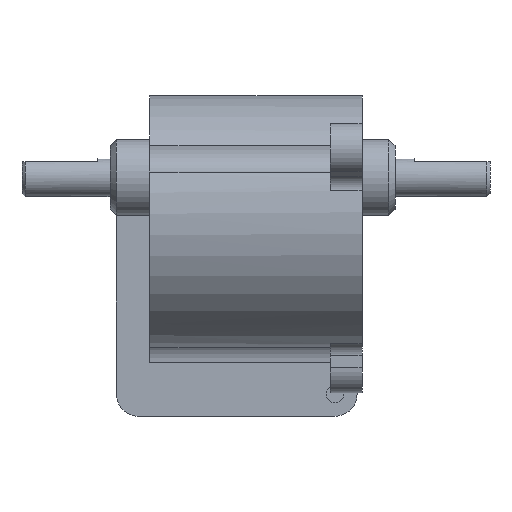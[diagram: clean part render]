
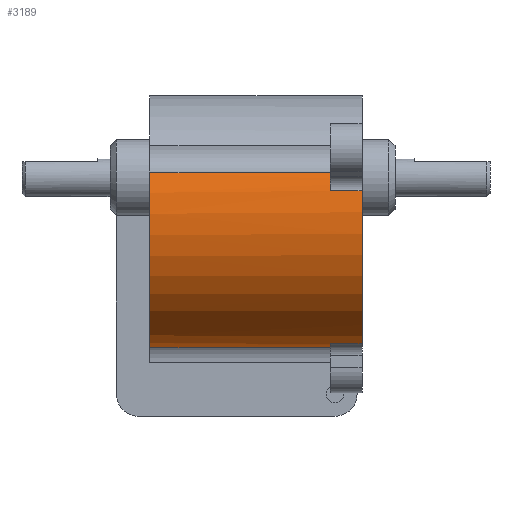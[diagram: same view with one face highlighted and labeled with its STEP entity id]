
A CAD part, left-side view. The second image highlights one B-rep face of the part: STEP entity #3189.
In plain terms, the highlighted cylindrical face has radius 20 mm (diameter 40 mm), a partial arc.
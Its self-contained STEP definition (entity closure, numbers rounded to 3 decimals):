
#181=CYLINDRICAL_SURFACE('',#3502,20.);
#267=FACE_OUTER_BOUND('',#464,.T.);
#464=EDGE_LOOP('',(#2209,#2210,#2211,#2212,#2213,#2214,#2215,#2216));
#712=CIRCLE('',#3503,20.);
#713=CIRCLE('',#3504,20.);
#714=CIRCLE('',#3505,20.);
#715=CIRCLE('',#3506,20.);
#910=LINE('',#5009,#1163);
#912=LINE('',#5017,#1165);
#913=LINE('',#5021,#1166);
#914=LINE('',#5025,#1167);
#1163=VECTOR('',#3941,10.);
#1165=VECTOR('',#3949,10.);
#1166=VECTOR('',#3952,10.);
#1167=VECTOR('',#3955,10.);
#1427=VERTEX_POINT('',#5006);
#1428=VERTEX_POINT('',#5008);
#1430=VERTEX_POINT('',#5014);
#1431=VERTEX_POINT('',#5016);
#1432=VERTEX_POINT('',#5018);
#1433=VERTEX_POINT('',#5020);
#1434=VERTEX_POINT('',#5022);
#1435=VERTEX_POINT('',#5024);
#1735=EDGE_CURVE('',#1427,#1428,#910,.T.);
#1738=EDGE_CURVE('',#1427,#1430,#712,.T.);
#1739=EDGE_CURVE('',#1430,#1431,#912,.T.);
#1740=EDGE_CURVE('',#1431,#1432,#713,.T.);
#1741=EDGE_CURVE('',#1432,#1433,#913,.T.);
#1742=EDGE_CURVE('',#1433,#1434,#714,.T.);
#1743=EDGE_CURVE('',#1435,#1434,#914,.T.);
#1744=EDGE_CURVE('',#1428,#1435,#715,.T.);
#2209=ORIENTED_EDGE('',*,*,#1735,.F.);
#2210=ORIENTED_EDGE('',*,*,#1738,.T.);
#2211=ORIENTED_EDGE('',*,*,#1739,.T.);
#2212=ORIENTED_EDGE('',*,*,#1740,.T.);
#2213=ORIENTED_EDGE('',*,*,#1741,.T.);
#2214=ORIENTED_EDGE('',*,*,#1742,.T.);
#2215=ORIENTED_EDGE('',*,*,#1743,.F.);
#2216=ORIENTED_EDGE('',*,*,#1744,.F.);
#3189=ADVANCED_FACE('',(#267),#181,.T.);
#3502=AXIS2_PLACEMENT_3D('',#5013,#3945,#3946);
#3503=AXIS2_PLACEMENT_3D('',#5015,#3947,#3948);
#3504=AXIS2_PLACEMENT_3D('',#5019,#3950,#3951);
#3505=AXIS2_PLACEMENT_3D('',#5023,#3953,#3954);
#3506=AXIS2_PLACEMENT_3D('',#5026,#3956,#3957);
#3941=DIRECTION('',(0.,-1.,0.));
#3945=DIRECTION('center_axis',(0.,1.,0.));
#3946=DIRECTION('ref_axis',(-0.866,0.,-0.5));
#3947=DIRECTION('center_axis',(0.,1.,0.));
#3948=DIRECTION('ref_axis',(1.,0.,0.));
#3949=DIRECTION('',(0.,1.,0.));
#3950=DIRECTION('center_axis',(0.,-1.,0.));
#3951=DIRECTION('ref_axis',(1.,0.,0.));
#3952=DIRECTION('',(0.,-1.,0.));
#3953=DIRECTION('center_axis',(0.,1.,0.));
#3954=DIRECTION('ref_axis',(1.,0.,0.));
#3955=DIRECTION('',(0.,1.,0.));
#3956=DIRECTION('center_axis',(0.,-1.,0.));
#3957=DIRECTION('ref_axis',(1.,0.,0.));
#5006=CARTESIAN_POINT('',(-19.391,5.,4.897));
#5008=CARTESIAN_POINT('',(-19.391,0.,4.897));
#5009=CARTESIAN_POINT('',(-19.391,0.,4.897));
#5013=CARTESIAN_POINT('Origin',(0.,0.,0.));
#5014=CARTESIAN_POINT('',(-18.42,5.,7.791));
#5015=CARTESIAN_POINT('Origin',(0.,5.,0.));
#5016=CARTESIAN_POINT('',(-18.42,33.5,7.791));
#5017=CARTESIAN_POINT('',(-18.42,33.5,7.791));
#5018=CARTESIAN_POINT('',(-2.462,33.5,-19.848));
#5019=CARTESIAN_POINT('Origin',(0.,33.5,0.));
#5020=CARTESIAN_POINT('',(-2.462,5.,-19.848));
#5021=CARTESIAN_POINT('',(-2.462,33.5,-19.848));
#5022=CARTESIAN_POINT('',(-5.455,5.,-19.242));
#5023=CARTESIAN_POINT('Origin',(0.,5.,0.));
#5024=CARTESIAN_POINT('',(-5.455,0.,-19.242));
#5025=CARTESIAN_POINT('',(-5.455,0.,-19.242));
#5026=CARTESIAN_POINT('Origin',(0.,0.,0.));
